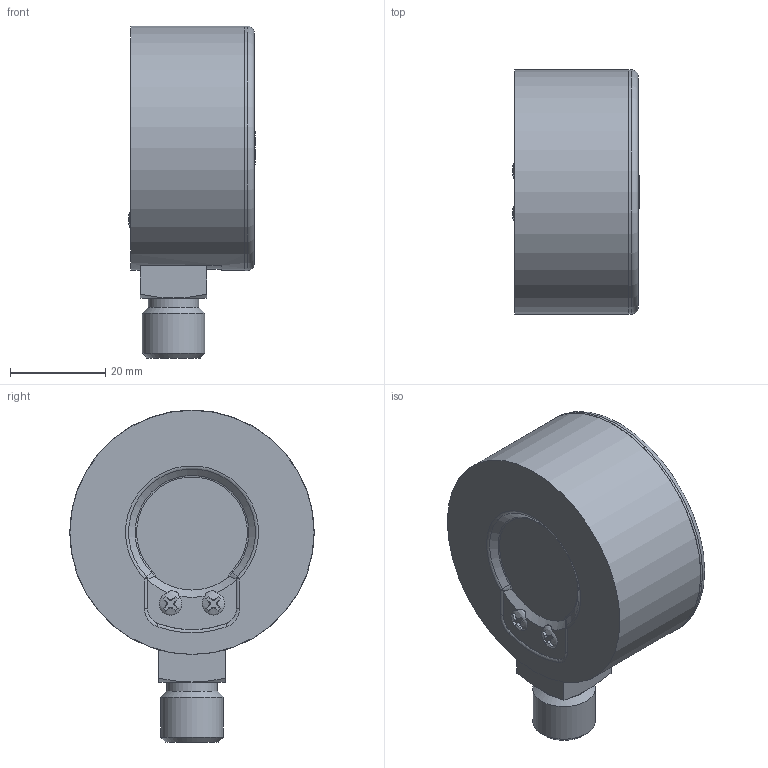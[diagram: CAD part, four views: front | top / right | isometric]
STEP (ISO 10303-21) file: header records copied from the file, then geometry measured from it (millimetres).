
FILE_DESCRIPTION(('STEP AP203'), '1');
FILE_NAME('VT.TM50.DC.02', '', ('UNSPECIFIED'), ('UNSPECIFIED'), 'C3D Converter', 'C3D Toolkit', '');
FILE_SCHEMA(('CONFIG_CONTROL_DESIGN'));
Length unit declared in the file: millimetre
Products named in the file (1): ВР.408667.005.000 СБ
Bounding box: 26.62 x 51.4 x 69.75 mm (x, y, z)
Volume: 55453.2 mm3; surface area: 9399.4 mm2
Topology: 1 solids, 1 shells, 99 faces, 250 edges, 159 vertices
Faces by surface type: plane 52, cylinder 22, cone 13, torus 10, bspline 2
Full cylindrical faces by diameter (mm): 4 x1, 10.6 x1, 13.157 x1, 51.3 x1, 51.4 x1
Entity records: 4898 total; most frequent: CARTESIAN_POINT 2593, ORIENTED_EDGE 480, DIRECTION 446, EDGE_CURVE 240, AXIS2_PLACEMENT_3D 170, VERTEX_POINT 159, EDGE_LOOP 115, LINE 106
